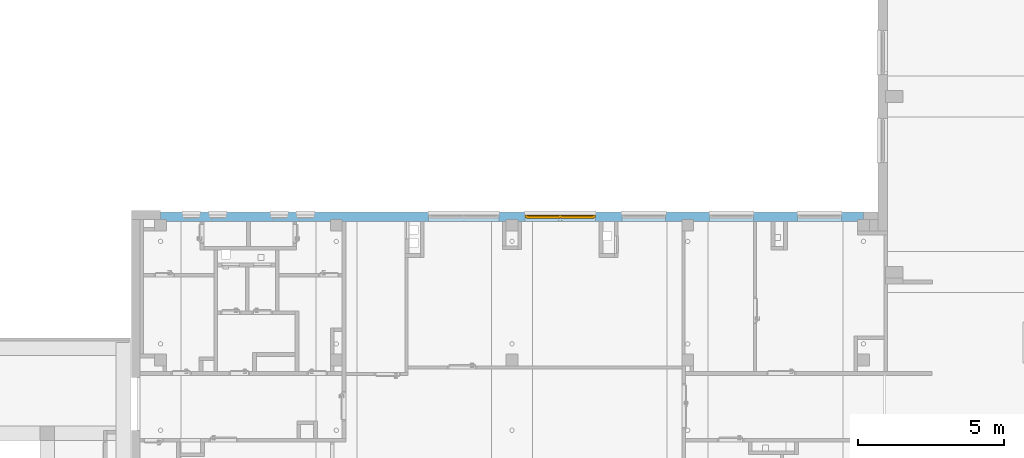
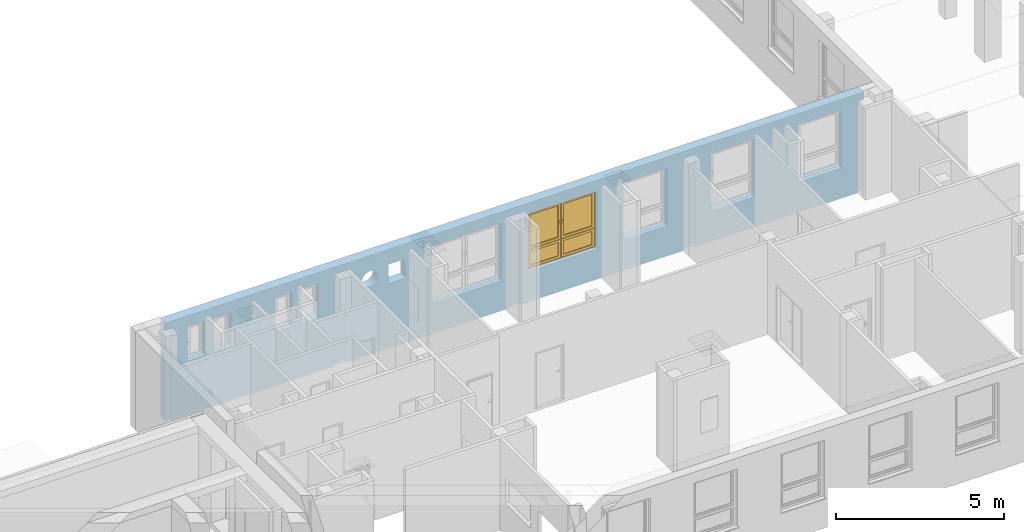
# One storey, part 15 of 50: 1 window, 11 openings, plus 1 element that does not belong to this part.
"""IFC4 building model written with IfcOpenShell, lengths in metres."""

from ifc_helpers import new_model, entity, si_unit, converted_unit, derived_unit, frame, frame_2d, origin, origin_with_axes, place, context, subcontext, project, spatial, polyline, rectangle, outline, extrude, clip, bounded_halfspace, closed_shell, open_shell, surface_model, source, transform, mapped, material, layer, layer_set, layer_usage, element, fill, save


model = new_model("IFC4")

# Units and contexts
model_context = context("Model", 3, precision=1e-05, world=origin())
body_context = subcontext(model_context, "Body", "Model", "MODEL_VIEW")
ifc_project = project(units=[si_unit("LENGTHUNIT", "METRE"), si_unit("AREAUNIT", "SQUARE_METRE"), si_unit("VOLUMEUNIT", "CUBIC_METRE"), si_unit("MASSUNIT", "GRAM", prefix="KILO"), converted_unit("PLANEANGLEUNIT", "DEGREE", entity("IfcPlaneAngleMeasure", 0.0174532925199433), si_unit("PLANEANGLEUNIT", "RADIAN"), dimensions=[0, 0, 0, 0, 0, 0, 0]), derived_unit("THERMALTRANSMITTANCEUNIT", [(si_unit("POWERUNIT", "WATT"), 1), (si_unit("THERMODYNAMICTEMPERATUREUNIT", "KELVIN"), -1), (si_unit("LENGTHUNIT", "METRE"), -2)]), derived_unit("VOLUMETRICFLOWRATEUNIT", [(si_unit("LENGTHUNIT", "METRE"), 3), (converted_unit("TIMEUNIT", "hour", entity("IfcTimeMeasure", 3600.0), si_unit("TIMEUNIT", "SECOND"), dimensions=[0, 0, 1, 0, 0, 0, 0]), -1), (si_unit("LENGTHUNIT", "METRE"), -1)])], contexts=[model_context])

# Site, building, storey
site_placement = place(None, origin())
site = spatial("IfcSite", under=ifc_project, at=site_placement, Name="3. ASŘ", CompositionType="ELEMENT")
building_placement = place(site_placement, origin())
building = spatial("IfcBuilding", under=site, at=building_placement, Name="Pavilon C", CompositionType="ELEMENT")
storey_placement = place(building_placement, frame((0.0, 0.0, 3.6)))
storey = spatial("IfcBuildingStorey", under=building, at=storey_placement, Name="Půdorys 2.NP", CompositionType="ELEMENT", Elevation=3.6)

# Wall, openings, window
ifc_material = material(Name="ZELEZOBETONOVÁ KCE")
ifc_layer = layer(ifc_material, 0.32)
ifc_layer_set = layer_set([ifc_layer])
ifc_layer_usage = layer_usage(ifc_layer_set, "AXIS2", "POSITIVE", 0.0)
wall_placement = place(storey_placement, frame((24.0, 15.25, -0.1), z_axis=(0.0, 0.0, 1.0), x_axis=(-1.0, 0.0, 0.0)))
wall = element("IfcWall", 1, at=wall_placement, inside=storey, material=ifc_layer_usage, Name="ZELEZOBETONOVÁ KCE", context=body_context, shape_type="Clipping", body=[
    clip(clip(clip(clip(clip(extrude(rectangle(XDim=24.0, YDim=0.32, at=frame_2d((12.0, 0.16), x_axis=(1.0, 0.0))), origin_with_axes(), (0.0, 0.0, 1.0), 3.6), bounded_halfspace(frame((23.9, 0.285000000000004, 3.35), z_axis=(0.0, 0.0, 1.0), x_axis=(1.0, 0.0, 0.0)), True, origin_with_axes(), polyline([(23.8, 0.250000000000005), (24.0, 0.250000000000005), (24.0, 0.32), (23.8, 0.320000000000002), (23.8, 0.250000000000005)]))), bounded_halfspace(frame((0.0999999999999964, 0.285000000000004, 3.35), z_axis=(0.0, 0.0, 1.0), x_axis=(1.0, 0.0, 0.0)), True, origin_with_axes(), polyline([(0.0, 0.250000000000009), (0.199999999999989, 0.250000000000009), (0.199999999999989, 0.320000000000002), (0.0, 0.32), (0.0, 0.250000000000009)]))), bounded_halfspace(frame((12.0, 0.285000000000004, 3.35), z_axis=(0.0, 0.0, 1.0), x_axis=(1.0, 0.0, 0.0)), True, origin_with_axes(), polyline([(11.8, 0.250000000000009), (12.2, 0.250000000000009), (12.2, 0.32), (11.8, 0.32), (11.8, 0.250000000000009)]))), bounded_halfspace(frame((5.99999999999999, 0.285000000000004, 3.35), z_axis=(0.0, 0.0, 1.0), x_axis=(1.0, 0.0, 0.0)), True, origin_with_axes(), polyline([(5.79999999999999, 0.250000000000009), (6.19999999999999, 0.250000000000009), (6.19999999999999, 0.32), (5.79999999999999, 0.32), (5.79999999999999, 0.250000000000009)]))), bounded_halfspace(frame((18.0, 0.285000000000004, 3.35), z_axis=(0.0, 0.0, 1.0), x_axis=(1.0, 0.0, 0.0)), True, origin_with_axes(), polyline([(17.8, 0.250000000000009), (18.2, 0.250000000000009), (18.2, 0.32), (17.8, 0.32), (17.8, 0.250000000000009)]))),
])
opening_1_placement = place(wall_placement, frame((16.7, 0.0, 2.475), z_axis=(0.0, 1.0, 0.0), x_axis=(0.0, 0.0, 1.0)))
element("IfcOpeningElement", 2, at=opening_1_placement, cuts=wall, Name="Prostup stěnou", ObjectType="Opening", context=body_context, shape_type="SweptSolid", body=[
    extrude(outline(polyline([(0.274999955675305, 0.55), (0.303745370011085, 0.548493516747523), (0.332175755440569, 0.543990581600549), (0.359979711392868, 0.536540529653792), (0.386852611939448, 0.526224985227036), (0.412500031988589, 0.5131569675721), (0.436640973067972, 0.497479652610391), (0.459010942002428, 0.479364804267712), (0.479364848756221, 0.459010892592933), (0.497479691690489, 0.436640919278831), (0.513157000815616, 0.412499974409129), (0.526225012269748, 0.38685255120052), (0.536540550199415, 0.35997964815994), (0.54399059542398, 0.332175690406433), (0.548493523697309, 0.303745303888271), (0.549999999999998, 0.274999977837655), (0.548493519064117, 0.246254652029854), (0.543990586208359, 0.217824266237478), (0.536540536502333, 0.190020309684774), (0.526224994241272, 0.163147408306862), (0.51315697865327, 0.137499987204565), (0.497479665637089, 0.113359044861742), (0.479364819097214, 0.090989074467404), (0.459010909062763, 0.0706351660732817), (0.436640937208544, 0.0525203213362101), (0.412499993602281, 0.0368430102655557), (0.386852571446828, 0.0237749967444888), (0.35997966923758, 0.0134594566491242), (0.332175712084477, 0.00600940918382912), (0.303745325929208, 0.00150647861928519), (0.274999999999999, 0.0), (0.24625467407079, 0.00150647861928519), (0.217824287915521, 0.00600940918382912), (0.190020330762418, 0.0134594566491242), (0.16314742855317, 0.0237749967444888), (0.137500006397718, 0.0368430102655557), (0.113359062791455, 0.0525203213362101), (0.0909890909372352, 0.0706351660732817), (0.0706351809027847, 0.090989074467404), (0.0525203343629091, 0.113359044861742), (0.0368430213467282, 0.137499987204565), (0.0237750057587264, 0.163147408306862), (0.0134594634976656, 0.190020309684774), (0.00600941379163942, 0.217824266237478), (0.00150648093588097, 0.246254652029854), (0.0, 0.274999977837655), (0.00150647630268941, 0.303745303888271), (0.00600940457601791, 0.332175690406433), (0.0134594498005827, 0.35997964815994), (0.0237749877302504, 0.38685255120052), (0.0368429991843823, 0.412499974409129), (0.0525203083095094, 0.436640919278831), (0.0706351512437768, 0.459010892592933), (0.0909890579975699, 0.479364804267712), (0.113359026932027, 0.497479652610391), (0.137499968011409, 0.5131569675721), (0.16314738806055, 0.526224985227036), (0.19002028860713, 0.536540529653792), (0.21782424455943, 0.543990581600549), (0.246254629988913, 0.548493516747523), (0.274999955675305, 0.55)])), origin_with_axes(), (0.0, 0.0, 1.0), 0.32),
])
opening_2_placement = place(wall_placement, frame((15.75, 0.0, 2.35), z_axis=(0.0, 1.0, 0.0), x_axis=(0.0, 0.0, 1.0)))
element("IfcOpeningElement", 3, at=opening_2_placement, cuts=wall, Name="Prostup stěnou", ObjectType="Opening", context=body_context, shape_type="SweptSolid", body=[
    extrude(outline(polyline([(0.0, 0.6), (0.7, 0.6), (0.7, 0.0), (0.0, 0.0), (0.0, 0.6)])), origin_with_axes(), (0.0, 0.0, 1.0), 0.32),
])
opening_3_placement = place(wall_placement, frame((12.45, 0.0, 1.1), z_axis=(0.0, 1.0, 0.0), x_axis=(0.0, 0.0, 1.0)))
element("IfcOpeningElement", 4, at=opening_3_placement, cuts=wall, Name="Okenní otvor", ObjectType="Opening", context=body_context, shape_type="SweptSolid", body=[
    extrude(outline(polyline([(0.0, 2.4), (2.1, 2.4), (2.1, 0.0), (0.0, 0.0), (0.0, 2.4)])), origin_with_axes(), (0.0, 0.0, 1.0), 0.32),
])
opening_4_placement = place(wall_placement, frame((9.15000000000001, 0.0, 1.1), z_axis=(0.0, 1.0, 0.0), x_axis=(0.0, 0.0, 1.0)))
opening_4 = element("IfcOpeningElement", 5, at=opening_4_placement, cuts=wall, Name="Okenní otvor", ObjectType="Opening", context=body_context, shape_type="SweptSolid", body=[
    extrude(outline(polyline([(0.0, 2.4), (2.1, 2.4), (2.1, 0.0), (0.0, 0.0), (0.0, 2.4)])), origin_with_axes(), (0.0, 0.0, 1.0), 0.32),
])
opening_5_placement = place(wall_placement, frame((0.750000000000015, 0.0, 1.1), z_axis=(0.0, 1.0, 0.0), x_axis=(0.0, 0.0, 1.0)))
element("IfcOpeningElement", 6, at=opening_5_placement, cuts=wall, Name="Okenní otvor", ObjectType="Opening", context=body_context, shape_type="SweptSolid", body=[
    extrude(outline(polyline([(0.0, 1.5), (2.1, 1.5), (2.1, 0.0), (0.0, 0.0), (0.0, 1.5)])), origin_with_axes(), (0.0, 0.0, 1.0), 0.32),
])
opening_6_placement = place(wall_placement, frame((3.75000000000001, 0.0, 1.1), z_axis=(0.0, 1.0, 0.0), x_axis=(0.0, 0.0, 1.0)))
element("IfcOpeningElement", 7, at=opening_6_placement, cuts=wall, Name="Okenní otvor", ObjectType="Opening", context=body_context, shape_type="SweptSolid", body=[
    extrude(outline(polyline([(0.0, 1.5), (2.1, 1.5), (2.1, 0.0), (0.0, 0.0), (0.0, 1.5)])), origin_with_axes(), (0.0, 0.0, 1.0), 0.32),
])
opening_7_placement = place(wall_placement, frame((6.75000000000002, 0.0, 1.1), z_axis=(0.0, 1.0, 0.0), x_axis=(0.0, 0.0, 1.0)))
element("IfcOpeningElement", 8, at=opening_7_placement, cuts=wall, Name="Okenní otvor", ObjectType="Opening", context=body_context, shape_type="SweptSolid", body=[
    extrude(outline(polyline([(0.0, 1.5), (2.1, 1.5), (2.1, 0.0), (0.0, 0.0), (0.0, 1.5)])), origin_with_axes(), (0.0, 0.0, 1.0), 0.32),
])
opening_8_placement = place(wall_placement, frame((22.65, 0.0, 1.95), z_axis=(0.0, 1.0, 0.0), x_axis=(0.0, 0.0, 1.0)))
element("IfcOpeningElement", 9, at=opening_8_placement, cuts=wall, Name="Okenní otvor", ObjectType="Opening", context=body_context, shape_type="SweptSolid", body=[
    extrude(outline(polyline([(0.0, 0.6), (1.25, 0.6), (1.25, 0.0), (0.0, 0.0), (0.0, 0.6)])), origin_with_axes(), (0.0, 0.0, 1.0), 0.32),
])
opening_9_placement = place(wall_placement, frame((18.75, 0.0, 1.95), z_axis=(0.0, 1.0, 0.0), x_axis=(0.0, 0.0, 1.0)))
element("IfcOpeningElement", 10, at=opening_9_placement, cuts=wall, Name="Okenní otvor", ObjectType="Opening", context=body_context, shape_type="SweptSolid", body=[
    extrude(outline(polyline([(0.0, 0.6), (1.25, 0.6), (1.25, 0.0), (0.0, 0.0), (0.0, 0.6)])), origin_with_axes(), (0.0, 0.0, 1.0), 0.32),
])
opening_10_placement = place(wall_placement, frame((19.65, 0.0, 1.95), z_axis=(0.0, 1.0, 0.0), x_axis=(0.0, 0.0, 1.0)))
element("IfcOpeningElement", 11, at=opening_10_placement, cuts=wall, Name="Okenní otvor", ObjectType="Opening", context=body_context, shape_type="SweptSolid", body=[
    extrude(outline(polyline([(0.0, 0.6), (1.25, 0.6), (1.25, 0.0), (0.0, 0.0), (0.0, 0.6)])), origin_with_axes(), (0.0, 0.0, 1.0), 0.32),
])
opening_11_placement = place(wall_placement, frame((21.75, 0.0, 1.95), z_axis=(0.0, 1.0, 0.0), x_axis=(0.0, 0.0, 1.0)))
element("IfcOpeningElement", 12, at=opening_11_placement, cuts=wall, Name="Okenní otvor", ObjectType="Opening", context=body_context, shape_type="SweptSolid", body=[
    extrude(outline(polyline([(0.0, 0.6), (1.25, 0.6), (1.25, 0.0), (0.0, 0.0), (0.0, 0.6)])), origin_with_axes(), (0.0, 0.0, 1.0), 0.32),
])
shared_shape = source(origin_with_axes(), body_context, "Body", "SurfaceModel", [
    surface_model("IfcShellBasedSurfaceModel", [(0.0, 0.182, 2.1), (0.0, 0.182, -5.63337527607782e-18), (0.08, 0.182, -5.63337527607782e-18), (0.08, 0.182, 2.1), (0.0, 0.0899999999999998, 5.63337527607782e-18), (0.0, 0.0900000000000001, 2.1), (0.08, 0.0900000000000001, 2.1), (0.08, 0.0899999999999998, 5.63337527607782e-18)], [closed_shell([[[0, 1, 2, 3]], [[4, 5, 6, 7]], [[1, 0, 5, 4]], [[2, 1, 4, 7]], [[3, 2, 7, 6]], [[0, 3, 6, 5]]], orient=[[False], [False], [False], [False], [False], [False]])]),
    surface_model("IfcShellBasedSurfaceModel", [(2.32, 0.182, 2.1), (2.32, 0.182, -5.63337527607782e-18), (2.4, 0.182, -5.63337527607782e-18), (2.4, 0.182, 2.1), (2.32, 0.0899999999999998, 5.63337527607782e-18), (2.32, 0.0900000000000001, 2.1), (2.4, 0.0900000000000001, 2.1), (2.4, 0.0899999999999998, 5.63337527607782e-18)], [closed_shell([[[0, 1, 2, 3]], [[4, 5, 6, 7]], [[1, 0, 5, 4]], [[2, 1, 4, 7]], [[3, 2, 7, 6]], [[0, 3, 6, 5]]], orient=[[False], [False], [False], [False], [False], [False]])]),
    surface_model("IfcShellBasedSurfaceModel", [(0.08, 0.182, 0.08), (0.08, 0.182, -5.63337527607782e-18), (2.32, 0.182, -5.63337527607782e-18), (2.32, 0.182, 0.08), (0.08, 0.0899999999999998, 5.63337527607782e-18), (0.08, 0.0899999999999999, 0.08), (2.32, 0.0899999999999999, 0.08), (2.32, 0.0899999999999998, 5.63337527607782e-18)], [closed_shell([[[0, 1, 2, 3]], [[4, 5, 6, 7]], [[1, 0, 5, 4]], [[2, 1, 4, 7]], [[3, 2, 7, 6]], [[0, 3, 6, 5]]], orient=[[False], [False], [False], [False], [False], [False]])]),
    surface_model("IfcShellBasedSurfaceModel", [(0.08, 0.182, 2.1), (0.08, 0.182, 2.02), (2.32, 0.182, 2.02), (2.32, 0.182, 2.1), (0.08, 0.0900000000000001, 2.02), (0.08, 0.0900000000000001, 2.1), (2.32, 0.0900000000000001, 2.1), (2.32, 0.0900000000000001, 2.02)], [closed_shell([[[0, 1, 2, 3]], [[4, 5, 6, 7]], [[1, 0, 5, 4]], [[2, 1, 4, 7]], [[3, 2, 7, 6]], [[0, 3, 6, 5]]], orient=[[False], [False], [False], [False], [False], [False]])]),
    surface_model("IfcShellBasedSurfaceModel", [(1.16, 0.182, 2.02), (1.16, 0.182, 0.08), (1.24, 0.182, 0.08), (1.24, 0.182, 2.02), (1.16, 0.0899999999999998, 0.08), (1.16, 0.0900000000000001, 2.02), (1.24, 0.0900000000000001, 2.02), (1.24, 0.0899999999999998, 0.08)], [closed_shell([[[0, 1, 2, 3]], [[4, 5, 6, 7]], [[1, 0, 5, 4]], [[2, 1, 4, 7]], [[3, 2, 7, 6]], [[0, 3, 6, 5]]], orient=[[False], [False], [False], [False], [False], [False]])]),
    surface_model("IfcShellBasedSurfaceModel", [(0.08, 0.182, 0.76), (0.08, 0.182, 0.68), (1.16, 0.182, 0.68), (1.16, 0.182, 0.76), (0.08, 0.0899999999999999, 0.68), (0.08, 0.0899999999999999, 0.76), (1.16, 0.0899999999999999, 0.76), (1.16, 0.0899999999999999, 0.68)], [closed_shell([[[0, 1, 2, 3]], [[4, 5, 6, 7]], [[1, 0, 5, 4]], [[2, 1, 4, 7]], [[3, 2, 7, 6]], [[0, 3, 6, 5]]], orient=[[False], [False], [False], [False], [False], [False]])]),
    surface_model("IfcShellBasedSurfaceModel", [(1.24, 0.182, 0.76), (1.24, 0.182, 0.68), (2.32, 0.182, 0.68), (2.32, 0.182, 0.76), (1.24, 0.0899999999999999, 0.68), (1.24, 0.0899999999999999, 0.76), (2.32, 0.0899999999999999, 0.76), (2.32, 0.0899999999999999, 0.68)], [closed_shell([[[0, 1, 2, 3]], [[4, 5, 6, 7]], [[1, 0, 5, 4]], [[2, 1, 4, 7]], [[3, 2, 7, 6]], [[0, 3, 6, 5]]], orient=[[False], [False], [False], [False], [False], [False]])]),
    surface_model("IfcShellBasedSurfaceModel", [(0.05, 0.145, 0.71), (0.05, 0.145, 0.05), (0.13, 0.145, 0.05), (0.13, 0.145, 0.71), (0.05, 0.0599999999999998, 0.05), (0.05, 0.0599999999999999, 0.71), (0.13, 0.0599999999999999, 0.71), (0.13, 0.0599999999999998, 0.05)], [closed_shell([[[0, 1, 2, 3]], [[4, 5, 6, 7]], [[1, 0, 5, 4]], [[2, 1, 4, 7]], [[3, 2, 7, 6]], [[0, 3, 6, 5]]], orient=[[False], [False], [False], [False], [False], [False]])]),
    surface_model("IfcShellBasedSurfaceModel", [(1.11, 0.145, 0.71), (1.11, 0.145, 0.05), (1.19, 0.145, 0.05), (1.19, 0.145, 0.71), (1.11, 0.0599999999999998, 0.05), (1.11, 0.0599999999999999, 0.71), (1.19, 0.0599999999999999, 0.71), (1.19, 0.0599999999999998, 0.05)], [closed_shell([[[0, 1, 2, 3]], [[4, 5, 6, 7]], [[1, 0, 5, 4]], [[2, 1, 4, 7]], [[3, 2, 7, 6]], [[0, 3, 6, 5]]], orient=[[False], [False], [False], [False], [False], [False]])]),
    surface_model("IfcShellBasedSurfaceModel", [(0.13, 0.145, 0.13), (0.13, 0.145, 0.05), (1.11, 0.145, 0.05), (1.11, 0.145, 0.13), (0.13, 0.0599999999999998, 0.05), (0.13, 0.0599999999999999, 0.13), (1.11, 0.0599999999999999, 0.13), (1.11, 0.0599999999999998, 0.05)], [closed_shell([[[0, 1, 2, 3]], [[4, 5, 6, 7]], [[1, 0, 5, 4]], [[2, 1, 4, 7]], [[3, 2, 7, 6]], [[0, 3, 6, 5]]], orient=[[False], [False], [False], [False], [False], [False]])]),
    surface_model("IfcShellBasedSurfaceModel", [(0.13, 0.145, 0.71), (0.13, 0.145, 0.63), (1.11, 0.145, 0.63), (1.11, 0.145, 0.71), (0.13, 0.0599999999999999, 0.63), (0.13, 0.0599999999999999, 0.71), (1.11, 0.0599999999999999, 0.71), (1.11, 0.0599999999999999, 0.63)], [closed_shell([[[0, 1, 2, 3]], [[4, 5, 6, 7]], [[1, 0, 5, 4]], [[2, 1, 4, 7]], [[3, 2, 7, 6]], [[0, 3, 6, 5]]], orient=[[False], [False], [False], [False], [False], [False]])]),
    surface_model("IfcShellBasedSurfaceModel", [(0.05, 0.145, 2.05), (0.05, 0.145, 0.73), (0.13, 0.145, 0.73), (0.13, 0.145, 2.05), (0.05, 0.0599999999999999, 0.73), (0.05, 0.0600000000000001, 2.05), (0.13, 0.0600000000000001, 2.05), (0.13, 0.0599999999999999, 0.73)], [closed_shell([[[0, 1, 2, 3]], [[4, 5, 6, 7]], [[1, 0, 5, 4]], [[2, 1, 4, 7]], [[3, 2, 7, 6]], [[0, 3, 6, 5]]], orient=[[False], [False], [False], [False], [False], [False]])]),
    surface_model("IfcShellBasedSurfaceModel", [(1.11, 0.145, 2.05), (1.11, 0.145, 0.73), (1.19, 0.145, 0.73), (1.19, 0.145, 2.05), (1.11, 0.0599999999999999, 0.73), (1.11, 0.0600000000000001, 2.05), (1.19, 0.0600000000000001, 2.05), (1.19, 0.0599999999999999, 0.73)], [closed_shell([[[0, 1, 2, 3]], [[4, 5, 6, 7]], [[1, 0, 5, 4]], [[2, 1, 4, 7]], [[3, 2, 7, 6]], [[0, 3, 6, 5]]], orient=[[False], [False], [False], [False], [False], [False]])]),
    surface_model("IfcShellBasedSurfaceModel", [(0.13, 0.145, 0.81), (0.13, 0.145, 0.73), (1.11, 0.145, 0.73), (1.11, 0.145, 0.81), (0.13, 0.0599999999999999, 0.73), (0.13, 0.0599999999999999, 0.81), (1.11, 0.0599999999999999, 0.81), (1.11, 0.0599999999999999, 0.73)], [closed_shell([[[0, 1, 2, 3]], [[4, 5, 6, 7]], [[1, 0, 5, 4]], [[2, 1, 4, 7]], [[3, 2, 7, 6]], [[0, 3, 6, 5]]], orient=[[False], [False], [False], [False], [False], [False]])]),
    surface_model("IfcShellBasedSurfaceModel", [(0.13, 0.145, 2.05), (0.13, 0.145, 1.97), (1.11, 0.145, 1.97), (1.11, 0.145, 2.05), (0.13, 0.0600000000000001, 1.97), (0.13, 0.0600000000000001, 2.05), (1.11, 0.0600000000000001, 2.05), (1.11, 0.0600000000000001, 1.97)], [closed_shell([[[0, 1, 2, 3]], [[4, 5, 6, 7]], [[1, 0, 5, 4]], [[2, 1, 4, 7]], [[3, 2, 7, 6]], [[0, 3, 6, 5]]], orient=[[False], [False], [False], [False], [False], [False]])]),
    surface_model("IfcShellBasedSurfaceModel", [(1.1375, 0.06, 1.41), (1.1375, 0.06, 1.37), (1.1625, 0.06, 1.37), (1.1625, 0.06, 1.41), (1.1375, 0.05, 1.37), (1.1375, 0.05, 1.41), (1.1625, 0.05, 1.41), (1.1625, 0.05, 1.37)], [closed_shell([[[0, 1, 2, 3]], [[4, 5, 6, 7]], [[1, 0, 5, 4]], [[2, 1, 4, 7]], [[3, 2, 7, 6]], [[0, 3, 6, 5]]], orient=[[False], [False], [False], [False], [False], [False]])]),
    surface_model("IfcShellBasedSurfaceModel", [(1.16, 0.05, 1.39), (1.15866025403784, 0.05, 1.395), (1.155, 0.05, 1.39866025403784), (1.15, 0.05, 1.4), (1.145, 0.05, 1.39866025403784), (1.14133974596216, 0.05, 1.395), (1.14, 0.05, 1.39), (1.14133974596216, 0.05, 1.385), (1.145, 0.05, 1.38133974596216), (1.15, 0.05, 1.38), (1.155, 0.05, 1.38133974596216), (1.15866025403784, 0.05, 1.385), (1.16, 0.01, 1.39), (1.15866025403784, 0.00500000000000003, 1.395), (1.155, 0.00133974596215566, 1.39866025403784), (1.15, 2.8421709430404e-17, 1.4), (1.145, 0.00133974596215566, 1.39866025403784), (1.14133974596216, 0.00500000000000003, 1.395), (1.14, 0.01, 1.39), (1.14133974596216, 0.015, 1.385), (1.145, 0.0186602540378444, 1.38133974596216), (1.15, 0.02, 1.38), (1.155, 0.0186602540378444, 1.38133974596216), (1.15866025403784, 0.015, 1.385), (1.16, 0.01, 1.275), (1.15866025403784, 0.005, 1.275), (1.155, 0.00133974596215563, 1.275), (1.15, 0.0, 1.275), (1.145, 0.00133974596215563, 1.275), (1.14133974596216, 0.005, 1.275), (1.14, 0.01, 1.275), (1.14133974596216, 0.015, 1.275), (1.145, 0.0186602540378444, 1.275), (1.15, 0.02, 1.275), (1.155, 0.0186602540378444, 1.275), (1.15866025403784, 0.015, 1.275)], [open_shell([[[0, 1, 2, 3, 4, 5, 6, 7, 8, 9, 10, 11]], [[0, 12, 13, 1]], [[1, 13, 14, 2]], [[2, 14, 15, 3]], [[3, 15, 16, 4]], [[4, 16, 17, 5]], [[5, 17, 18, 6]], [[6, 18, 19, 7]], [[7, 19, 20, 8]], [[8, 20, 21, 9]], [[9, 21, 22, 10]], [[10, 22, 23, 11]], [[11, 23, 12, 0]], [[12, 24, 25, 13]], [[13, 25, 26, 14]], [[14, 26, 27, 15]], [[15, 27, 28, 16]], [[16, 28, 29, 17]], [[17, 29, 30, 18]], [[18, 30, 31, 19]], [[19, 31, 32, 20]], [[20, 32, 33, 21]], [[21, 33, 34, 22]], [[22, 34, 35, 23]], [[23, 35, 24, 12]]], orient=[[False], [False], [False], [False], [False], [False], [False], [False], [False], [False], [False], [False], [False], [False], [False], [False], [False], [False], [False], [False], [False], [False], [False], [False], [False]])]),
    surface_model("IfcShellBasedSurfaceModel", [(1.21, 0.145, 0.71), (1.21, 0.145, 0.05), (1.29, 0.145, 0.05), (1.29, 0.145, 0.71), (1.21, 0.0599999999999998, 0.05), (1.21, 0.0599999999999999, 0.71), (1.29, 0.0599999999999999, 0.71), (1.29, 0.0599999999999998, 0.05)], [closed_shell([[[0, 1, 2, 3]], [[4, 5, 6, 7]], [[1, 0, 5, 4]], [[2, 1, 4, 7]], [[3, 2, 7, 6]], [[0, 3, 6, 5]]], orient=[[False], [False], [False], [False], [False], [False]])]),
    surface_model("IfcShellBasedSurfaceModel", [(2.27, 0.145, 0.71), (2.27, 0.145, 0.05), (2.35, 0.145, 0.05), (2.35, 0.145, 0.71), (2.27, 0.0599999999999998, 0.05), (2.27, 0.0599999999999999, 0.71), (2.35, 0.0599999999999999, 0.71), (2.35, 0.0599999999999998, 0.05)], [closed_shell([[[0, 1, 2, 3]], [[4, 5, 6, 7]], [[1, 0, 5, 4]], [[2, 1, 4, 7]], [[3, 2, 7, 6]], [[0, 3, 6, 5]]], orient=[[False], [False], [False], [False], [False], [False]])]),
    surface_model("IfcShellBasedSurfaceModel", [(1.29, 0.145, 0.13), (1.29, 0.145, 0.05), (2.27, 0.145, 0.05), (2.27, 0.145, 0.13), (1.29, 0.0599999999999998, 0.05), (1.29, 0.0599999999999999, 0.13), (2.27, 0.0599999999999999, 0.13), (2.27, 0.0599999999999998, 0.05)], [closed_shell([[[0, 1, 2, 3]], [[4, 5, 6, 7]], [[1, 0, 5, 4]], [[2, 1, 4, 7]], [[3, 2, 7, 6]], [[0, 3, 6, 5]]], orient=[[False], [False], [False], [False], [False], [False]])]),
    surface_model("IfcShellBasedSurfaceModel", [(1.29, 0.145, 0.71), (1.29, 0.145, 0.63), (2.27, 0.145, 0.63), (2.27, 0.145, 0.71), (1.29, 0.0599999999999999, 0.63), (1.29, 0.0599999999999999, 0.71), (2.27, 0.0599999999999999, 0.71), (2.27, 0.0599999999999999, 0.63)], [closed_shell([[[0, 1, 2, 3]], [[4, 5, 6, 7]], [[1, 0, 5, 4]], [[2, 1, 4, 7]], [[3, 2, 7, 6]], [[0, 3, 6, 5]]], orient=[[False], [False], [False], [False], [False], [False]])]),
    surface_model("IfcShellBasedSurfaceModel", [(1.21, 0.145, 2.05), (1.21, 0.145, 0.73), (1.29, 0.145, 0.73), (1.29, 0.145, 2.05), (1.21, 0.0599999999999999, 0.73), (1.21, 0.0600000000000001, 2.05), (1.29, 0.0600000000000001, 2.05), (1.29, 0.0599999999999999, 0.73)], [closed_shell([[[0, 1, 2, 3]], [[4, 5, 6, 7]], [[1, 0, 5, 4]], [[2, 1, 4, 7]], [[3, 2, 7, 6]], [[0, 3, 6, 5]]], orient=[[False], [False], [False], [False], [False], [False]])]),
    surface_model("IfcShellBasedSurfaceModel", [(2.27, 0.145, 2.05), (2.27, 0.145, 0.73), (2.35, 0.145, 0.73), (2.35, 0.145, 2.05), (2.27, 0.0599999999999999, 0.73), (2.27, 0.0600000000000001, 2.05), (2.35, 0.0600000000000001, 2.05), (2.35, 0.0599999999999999, 0.73)], [closed_shell([[[0, 1, 2, 3]], [[4, 5, 6, 7]], [[1, 0, 5, 4]], [[2, 1, 4, 7]], [[3, 2, 7, 6]], [[0, 3, 6, 5]]], orient=[[False], [False], [False], [False], [False], [False]])]),
    surface_model("IfcShellBasedSurfaceModel", [(1.29, 0.145, 0.81), (1.29, 0.145, 0.73), (2.27, 0.145, 0.73), (2.27, 0.145, 0.81), (1.29, 0.0599999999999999, 0.73), (1.29, 0.0599999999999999, 0.81), (2.27, 0.0599999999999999, 0.81), (2.27, 0.0599999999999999, 0.73)], [closed_shell([[[0, 1, 2, 3]], [[4, 5, 6, 7]], [[1, 0, 5, 4]], [[2, 1, 4, 7]], [[3, 2, 7, 6]], [[0, 3, 6, 5]]], orient=[[False], [False], [False], [False], [False], [False]])]),
    surface_model("IfcShellBasedSurfaceModel", [(1.29, 0.145, 2.05), (1.29, 0.145, 1.97), (2.27, 0.145, 1.97), (2.27, 0.145, 2.05), (1.29, 0.0600000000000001, 1.97), (1.29, 0.0600000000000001, 2.05), (2.27, 0.0600000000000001, 2.05), (2.27, 0.0600000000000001, 1.97)], [closed_shell([[[0, 1, 2, 3]], [[4, 5, 6, 7]], [[1, 0, 5, 4]], [[2, 1, 4, 7]], [[3, 2, 7, 6]], [[0, 3, 6, 5]]], orient=[[False], [False], [False], [False], [False], [False]])]),
    surface_model("IfcShellBasedSurfaceModel", [(1.2375, 0.06, 1.41), (1.2375, 0.06, 1.37), (1.2625, 0.06, 1.37), (1.2625, 0.06, 1.41), (1.2375, 0.05, 1.37), (1.2375, 0.05, 1.41), (1.2625, 0.05, 1.41), (1.2625, 0.05, 1.37)], [closed_shell([[[0, 1, 2, 3]], [[4, 5, 6, 7]], [[1, 0, 5, 4]], [[2, 1, 4, 7]], [[3, 2, 7, 6]], [[0, 3, 6, 5]]], orient=[[False], [False], [False], [False], [False], [False]])]),
    surface_model("IfcShellBasedSurfaceModel", [(1.26, 0.05, 1.39), (1.25866025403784, 0.05, 1.395), (1.255, 0.05, 1.39866025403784), (1.25, 0.05, 1.4), (1.245, 0.05, 1.39866025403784), (1.24133974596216, 0.05, 1.395), (1.24, 0.05, 1.39), (1.24133974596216, 0.05, 1.385), (1.245, 0.05, 1.38133974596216), (1.25, 0.05, 1.38), (1.255, 0.05, 1.38133974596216), (1.25866025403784, 0.05, 1.385), (1.26, 0.01, 1.39), (1.25866025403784, 0.00500000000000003, 1.395), (1.255, 0.00133974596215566, 1.39866025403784), (1.25, 2.8421709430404e-17, 1.4), (1.245, 0.00133974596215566, 1.39866025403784), (1.24133974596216, 0.00500000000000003, 1.395), (1.24, 0.01, 1.39), (1.24133974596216, 0.015, 1.385), (1.245, 0.0186602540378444, 1.38133974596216), (1.25, 0.02, 1.38), (1.255, 0.0186602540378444, 1.38133974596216), (1.25866025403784, 0.015, 1.385), (1.26, 0.01, 1.275), (1.25866025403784, 0.005, 1.275), (1.255, 0.00133974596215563, 1.275), (1.25, 0.0, 1.275), (1.245, 0.00133974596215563, 1.275), (1.24133974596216, 0.005, 1.275), (1.24, 0.01, 1.275), (1.24133974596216, 0.015, 1.275), (1.245, 0.0186602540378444, 1.275), (1.25, 0.02, 1.275), (1.255, 0.0186602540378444, 1.275), (1.25866025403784, 0.015, 1.275)], [open_shell([[[0, 1, 2, 3, 4, 5, 6, 7, 8, 9, 10, 11]], [[0, 12, 13, 1]], [[1, 13, 14, 2]], [[2, 14, 15, 3]], [[3, 15, 16, 4]], [[4, 16, 17, 5]], [[5, 17, 18, 6]], [[6, 18, 19, 7]], [[7, 19, 20, 8]], [[8, 20, 21, 9]], [[9, 21, 22, 10]], [[10, 22, 23, 11]], [[11, 23, 12, 0]], [[12, 24, 25, 13]], [[13, 25, 26, 14]], [[14, 26, 27, 15]], [[15, 27, 28, 16]], [[16, 28, 29, 17]], [[17, 29, 30, 18]], [[18, 30, 31, 19]], [[19, 31, 32, 20]], [[20, 32, 33, 21]], [[21, 33, 34, 22]], [[22, 34, 35, 23]], [[23, 35, 24, 12]]], orient=[[False], [False], [False], [False], [False], [False], [False], [False], [False], [False], [False], [False], [False], [False], [False], [False], [False], [False], [False], [False], [False], [False], [False], [False], [False]])]),
    surface_model("IfcShellBasedSurfaceModel", [(0.13, 0.1125, 0.63), (0.13, 0.1125, 0.13), (1.11, 0.1125, 0.13), (1.11, 0.1125, 0.63), (0.13, 0.0924999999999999, 0.13), (0.13, 0.0924999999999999, 0.63), (1.11, 0.0924999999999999, 0.63), (1.11, 0.0924999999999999, 0.13)], [closed_shell([[[0, 1, 2, 3]], [[4, 5, 6, 7]], [[1, 0, 5, 4]], [[2, 1, 4, 7]], [[3, 2, 7, 6]], [[0, 3, 6, 5]]], orient=[[False], [False], [False], [False], [False], [False]])]),
    surface_model("IfcShellBasedSurfaceModel", [(1.29, 0.1125, 0.63), (1.29, 0.1125, 0.13), (2.27, 0.1125, 0.13), (2.27, 0.1125, 0.63), (1.29, 0.0924999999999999, 0.13), (1.29, 0.0924999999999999, 0.63), (2.27, 0.0924999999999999, 0.63), (2.27, 0.0924999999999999, 0.13)], [closed_shell([[[0, 1, 2, 3]], [[4, 5, 6, 7]], [[1, 0, 5, 4]], [[2, 1, 4, 7]], [[3, 2, 7, 6]], [[0, 3, 6, 5]]], orient=[[False], [False], [False], [False], [False], [False]])]),
    surface_model("IfcShellBasedSurfaceModel", [(0.13, 0.1025, 0.81), (1.11, 0.1025, 0.81), (1.11, 0.1025, 1.97), (0.13, 0.1025, 1.97)], [open_shell([[[0, 1, 2, 3]]], orient=[[False]])]),
    surface_model("IfcShellBasedSurfaceModel", [(1.29, 0.1025, 0.81), (2.27, 0.1025, 0.81), (2.27, 0.1025, 1.97), (1.29, 0.1025, 1.97)], [open_shell([[[0, 1, 2, 3]]], orient=[[False]])]),
])
window_placement = place(opening_4_placement, frame((0.0, 2.4, 0.282), z_axis=(1.0, 0.0, 0.0), x_axis=(0.0, -1.0, 2.44929359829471e-16)))
window = element("IfcWindow", 13, at=window_placement, inside=storey, Name="O06", OverallHeight=2.1, OverallWidth=2.4, PartitioningType="USERDEFINED", PredefinedType="WINDOW", context=body_context, shape_type="MappedRepresentation", body=[
    mapped(shared_shape, transform((0.0, 0.0, 0.0), x_axis=(1.0, 0.0, 0.0), y_axis=(0.0, 1.0, 0.0), z_axis=(0.0, 0.0, 1.0), scale=1.0)),
])
fill(opening_4, window)

save(model, "model.ifc")
